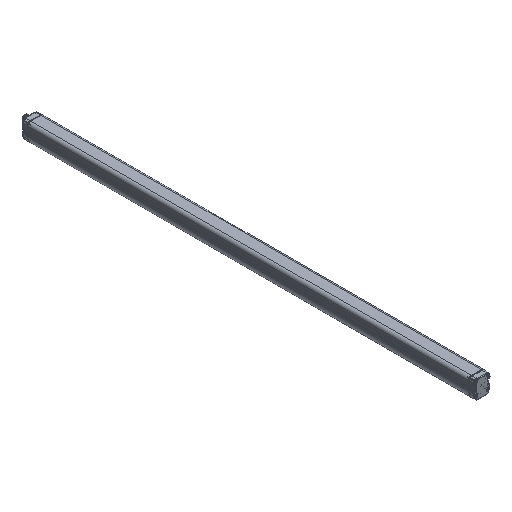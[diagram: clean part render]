
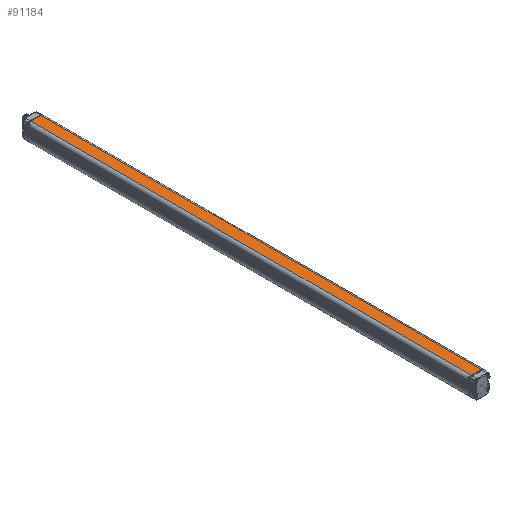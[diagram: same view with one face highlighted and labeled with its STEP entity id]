
A CAD part, isometric view. The second image highlights one B-rep face of the part: STEP entity #91184.
In plain terms, the highlighted planar face has unit normal (0, 0, 1).
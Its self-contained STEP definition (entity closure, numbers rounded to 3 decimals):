
#2285=DIRECTION('',(-1.,0.,0.));
#2286=VECTOR('',#2285,22.);
#2287=CARTESIAN_POINT('',(28.5,0.,
40.));
#2288=LINE('',#2287,#2286);
#2292=DIRECTION('',(0.,1.,0.));
#2293=VECTOR('',#2292,954.2);
#2294=CARTESIAN_POINT('',(6.5,0.,
40.));
#2295=LINE('',#2294,#2293);
#2299=DIRECTION('',(1.,0.,0.));
#2300=VECTOR('',#2299,22.);
#2301=CARTESIAN_POINT('',(6.5,954.2,40.));
#2302=LINE('',#2301,#2300);
#2306=CARTESIAN_POINT('',(6.5,0.,
40.));
#3966=CARTESIAN_POINT('',(28.5,0.,
40.));
#3971=DIRECTION('',(0.,1.,0.));
#3972=VECTOR('',#3971,954.2);
#3973=CARTESIAN_POINT('',(28.5,0.,
40.));
#3974=LINE('',#3973,#3972);
#85024=CARTESIAN_POINT('',(6.5,954.2,40.));
#85026=VERTEX_POINT('',#85024);
#85053=CARTESIAN_POINT('',(28.5,954.2,40.));
#85055=VERTEX_POINT('',#85053);
#86265=VERTEX_POINT('',#3966);
#86291=VERTEX_POINT('',#2306);
#91170=CARTESIAN_POINT('',(6.5,0.,40.));
#91171=DIRECTION('',(0.,0.,1.));
#91172=DIRECTION('',(1.,0.,0.));
#91173=AXIS2_PLACEMENT_3D('',#91170,#91171,#91172);
#91174=PLANE('',#91173);
#91175=ORIENTED_EDGE('',*,*,#91149,.T.);
#91177=ORIENTED_EDGE('',*,*,#91176,.T.);
#91179=ORIENTED_EDGE('',*,*,#91178,.T.);
#91181=ORIENTED_EDGE('',*,*,#91180,.F.);
#91182=EDGE_LOOP('',(#91175,#91177,#91179,#91181));
#91183=FACE_OUTER_BOUND('',#91182,.F.);
#91184=ADVANCED_FACE('',(#91183),#91174,.T.);
#91149=EDGE_CURVE('',#86265,#86291,#2288,.T.);
#91176=EDGE_CURVE('',#86291,#85026,#2295,.T.);
#91178=EDGE_CURVE('',#85026,#85055,#2302,.T.);
#91180=EDGE_CURVE('',#86265,#85055,#3974,.T.);
